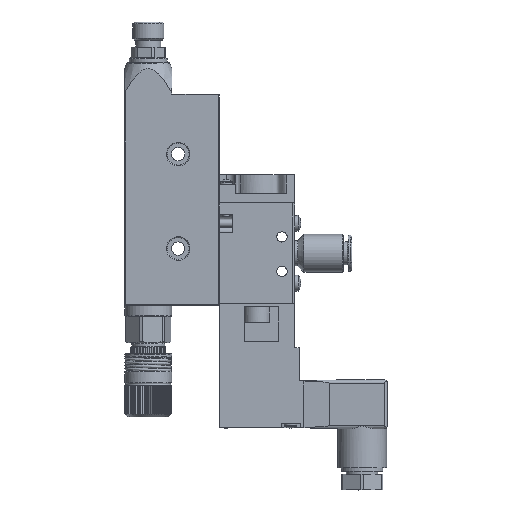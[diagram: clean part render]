
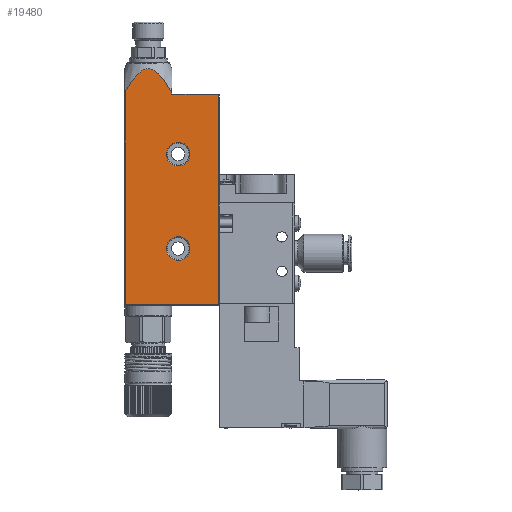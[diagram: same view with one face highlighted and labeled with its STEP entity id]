
A CAD part, left-side view. The second image highlights one B-rep face of the part: STEP entity #19480.
In plain terms, the highlighted planar face has unit normal (-1, 0, 0).
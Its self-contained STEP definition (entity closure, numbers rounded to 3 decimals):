
#657 = CARTESIAN_POINT ( 'NONE',  ( -7.5, -7.5, 38.5 ) ) ;
#771 = CARTESIAN_POINT ( 'NONE',  ( -7.5, -1.331, 36.36 ) ) ;
#894 = ORIENTED_EDGE ( 'NONE', *, *, #5423, .T. ) ;
#983 = CARTESIAN_POINT ( 'NONE',  ( -7.5, -5.61, 32.044 ) ) ;
#1410 = CARTESIAN_POINT ( 'NONE',  ( -7.5, 5.376, 32.388 ) ) ;
#1826 = EDGE_CURVE ( 'NONE', #28357, #23004, #36107, .T. ) ;
#2316 = LINE ( 'NONE', #24245, #5151 ) ;
#2641 = DIRECTION ( 'NONE',  ( 1., 0., 0. ) ) ;
#2645 = VECTOR ( 'NONE', #13626, 1000. ) ;
#2945 = CIRCLE ( 'NONE', #22001, 3.75 ) ;
#3754 = CARTESIAN_POINT ( 'NONE',  ( -7.5, 3.691, 34.53 ) ) ;
#3876 = CARTESIAN_POINT ( 'NONE',  ( -7.5, -9.5, -16.75 ) ) ;
#3913 = EDGE_LOOP ( 'NONE', ( #30603 ) ) ;
#4067 = CARTESIAN_POINT ( 'NONE',  ( -7.5, 7.5, 28.5 ) ) ;
#4097 = VERTEX_POINT ( 'NONE', #23415 ) ;
#4169 = CARTESIAN_POINT ( 'NONE',  ( -7.5, -4.267, 33.857 ) ) ;
#4593 = CARTESIAN_POINT ( 'NONE',  ( -7.5, 1.96, 36.026 ) ) ;
#5151 = VECTOR ( 'NONE', #21258, 1000. ) ;
#5410 = EDGE_LOOP ( 'NONE', ( #894 ) ) ;
#5423 = EDGE_CURVE ( 'NONE', #11822, #11822, #2945, .T. ) ;
#5662 = AXIS2_PLACEMENT_3D ( 'NONE', #4067, #36593, #13854 ) ;
#6430 = CARTESIAN_POINT ( 'NONE',  ( -7.5, -9.5, -20.5 ) ) ;
#6669 = VECTOR ( 'NONE', #12904, 1000. ) ;
#7372 = CARTESIAN_POINT ( 'NONE',  ( -7.5, -2.322, 35.78 ) ) ;
#7572 = CARTESIAN_POINT ( 'NONE',  ( -7.5, 2.704, 35.493 ) ) ;
#7784 = CARTESIAN_POINT ( 'NONE',  ( -7.5, -1.742, 36.156 ) ) ;
#8607 = CARTESIAN_POINT ( 'NONE',  ( -7.5, 7.5, 28.5 ) ) ;
#10577 = CARTESIAN_POINT ( 'NONE',  ( -7.5, 7.3, 29.302 ) ) ;
#10678 = FACE_OUTER_BOUND ( 'NONE', #31249, .T. ) ;
#10785 = CARTESIAN_POINT ( 'NONE',  ( -7.5, 0.692, 36.573 ) ) ;
#10995 = CARTESIAN_POINT ( 'NONE',  ( -7.5, -3.358, 34.871 ) ) ;
#11335 = DIRECTION ( 'NONE',  ( 0., -1., 0. ) ) ;
#11558 = CARTESIAN_POINT ( 'NONE',  ( -7.5, -9.5, 9.5 ) ) ;
#11822 = VERTEX_POINT ( 'NONE', #24780 ) ;
#12904 = DIRECTION ( 'NONE',  ( 0., -1., 0. ) ) ;
#13236 = FACE_BOUND ( 'NONE', #3913, .T. ) ;
#13548 = CARTESIAN_POINT ( 'NONE',  ( -7.5, -1.12, 36.445 ) ) ;
#13626 = DIRECTION ( 'NONE',  ( 0., 0., 1. ) ) ;
#13746 = CARTESIAN_POINT ( 'NONE',  ( -7.5, 3.992, 34.187 ) ) ;
#13854 = DIRECTION ( 'NONE',  ( 0., 0., 1. ) ) ;
#14176 = CARTESIAN_POINT ( 'NONE',  ( -7.5, -3.978, 34.205 ) ) ;
#14229 = VERTEX_POINT ( 'NONE', #24769 ) ;
#14299 = DIRECTION ( 'NONE',  ( 1., 0., 0. ) ) ;
#14686 = ORIENTED_EDGE ( 'NONE', *, *, #1826, .T. ) ;
#15497 = ORIENTED_EDGE ( 'NONE', *, *, #40170, .T. ) ;
#16807 = LINE ( 'NONE', #657, #2645 ) ;
#17058 = VERTEX_POINT ( 'NONE', #3876 ) ;
#17139 = CARTESIAN_POINT ( 'NONE',  ( -7.5, -5.1, 32.789 ) ) ;
#19480 = ADVANCED_FACE ( 'NONE', ( #13236, #20229, #10678 ), #33215, .T. ) ;
#19922 = CARTESIAN_POINT ( 'NONE',  ( -7.5, -3.029, 35.19 ) ) ;
#20125 = CARTESIAN_POINT ( 'NONE',  ( -7.5, 0.235, 36.643 ) ) ;
#20229 = FACE_BOUND ( 'NONE', #5410, .T. ) ;
#20548 = CARTESIAN_POINT ( 'NONE',  ( -7.5, -0.453, 36.619 ) ) ;
#20737 = CIRCLE ( 'NONE', #28229, 3.75 ) ;
#20762 = CARTESIAN_POINT ( 'NONE',  ( -7.5, 1.559, 36.253 ) ) ;
#21160 = DIRECTION ( 'NONE',  ( 0., 1., 0. ) ) ;
#21258 = DIRECTION ( 'NONE',  ( 0., 0., 1. ) ) ;
#21490 = CARTESIAN_POINT ( 'NONE',  ( -7.5, -7.5, 28.5 ) ) ;
#22001 = AXIS2_PLACEMENT_3D ( 'NONE', #11558, #14299, #11335 ) ;
#22906 = EDGE_CURVE ( 'NONE', #4097, #33221, #24776, .T. ) ;
#23004 = VERTEX_POINT ( 'NONE', #38356 ) ;
#23058 = EDGE_CURVE ( 'NONE', #17058, #17058, #20737, .T. ) ;
#23104 = CARTESIAN_POINT ( 'NONE',  ( -7.5, 7.5, -38.3 ) ) ;
#23415 = CARTESIAN_POINT ( 'NONE',  ( -7.5, -22.3, 28.5 ) ) ;
#24245 = CARTESIAN_POINT ( 'NONE',  ( -7.5, -22.3, 28.5 ) ) ;
#24717 = VECTOR ( 'NONE', #29347, 1000. ) ;
#24769 = CARTESIAN_POINT ( 'NONE',  ( -7.5, -7.5, 28.955 ) ) ;
#24776 = LINE ( 'NONE', #8607, #36995 ) ;
#24780 = CARTESIAN_POINT ( 'NONE',  ( -7.5, -13.25, 9.5 ) ) ;
#24824 = VERTEX_POINT ( 'NONE', #29176 ) ;
#25956 = B_SPLINE_CURVE_WITH_KNOTS ( 'NONE', 3,
 ( #26738, #36065, #27161, #983, #17139, #4169, #14176, #36486, #10995, #19922, #40315, #30352, #7372, #36915, #7784, #771, #13548, #32895, #20548, #30140, #20125, #10785, #33108, #33315, #20762, #4593, #36697, #7572, #30571, #3754, #13746, #33518, #1410, #39673, #27362, #10577 ),
 .UNSPECIFIED., .F., .F.,
 ( 4, 2, 2, 2, 2, 2, 2, 2, 2, 2, 2, 2, 2, 2, 2, 2, 2, 4 ),
 ( 0., 0.003, 0.005, 0.007, 0.007, 0.008, 0.009, 0.009, 0.01, 0.011, 0.012, 0.012, 0.013, 0.014, 0.015, 0.016, 0.019, 0.022 ),
 .UNSPECIFIED. ) ;
#26738 = CARTESIAN_POINT ( 'NONE',  ( -7.5, -7.5, 28.955 ) ) ;
#27161 = CARTESIAN_POINT ( 'NONE',  ( -7.5, -6.585, 30.521 ) ) ;
#27362 = CARTESIAN_POINT ( 'NONE',  ( -7.5, 6.843, 30.091 ) ) ;
#28229 = AXIS2_PLACEMENT_3D ( 'NONE', #6430, #2641, #38967 ) ;
#28304 = CARTESIAN_POINT ( 'NONE',  ( -7.5, 7.3, 29.302 ) ) ;
#28357 = VERTEX_POINT ( 'NONE', #28304 ) ;
#29176 = CARTESIAN_POINT ( 'NONE',  ( -7.5, -22.3, -38.3 ) ) ;
#29347 = DIRECTION ( 'NONE',  ( 0., 0., -1. ) ) ;
#30089 = ORIENTED_EDGE ( 'NONE', *, *, #33173, .T. ) ;
#30140 = CARTESIAN_POINT ( 'NONE',  ( -7.5, 0.006, 36.652 ) ) ;
#30352 = CARTESIAN_POINT ( 'NONE',  ( -7.5, -2.505, 35.64 ) ) ;
#30571 = CARTESIAN_POINT ( 'NONE',  ( -7.5, 3.047, 35.184 ) ) ;
#30603 = ORIENTED_EDGE ( 'NONE', *, *, #23058, .T. ) ;
#31249 = EDGE_LOOP ( 'NONE', ( #34766, #32606, #37916, #30089, #15497, #14686 ) ) ;
#32606 = ORIENTED_EDGE ( 'NONE', *, *, #38085, .T. ) ;
#32639 = EDGE_CURVE ( 'NONE', #23004, #24824, #35233, .T. ) ;
#32895 = CARTESIAN_POINT ( 'NONE',  ( -7.5, -0.683, 36.575 ) ) ;
#33108 = CARTESIAN_POINT ( 'NONE',  ( -7.5, 0.917, 36.513 ) ) ;
#33173 = EDGE_CURVE ( 'NONE', #33221, #14229, #16807, .T. ) ;
#33215 = PLANE ( 'NONE',  #5662 ) ;
#33221 = VERTEX_POINT ( 'NONE', #21490 ) ;
#33315 = CARTESIAN_POINT ( 'NONE',  ( -7.5, 1.348, 36.353 ) ) ;
#33518 = CARTESIAN_POINT ( 'NONE',  ( -7.5, 4.853, 33.13 ) ) ;
#34766 = ORIENTED_EDGE ( 'NONE', *, *, #32639, .T. ) ;
#35233 = LINE ( 'NONE', #23104, #6669 ) ;
#36065 = CARTESIAN_POINT ( 'NONE',  ( -7.5, -7.05, 29.743 ) ) ;
#36107 = LINE ( 'NONE', #36321, #24717 ) ;
#36321 = CARTESIAN_POINT ( 'NONE',  ( -7.5, 7.3, 28.5 ) ) ;
#36486 = CARTESIAN_POINT ( 'NONE',  ( -7.5, -3.517, 34.707 ) ) ;
#36593 = DIRECTION ( 'NONE',  ( -1., 0., 0. ) ) ;
#36697 = CARTESIAN_POINT ( 'NONE',  ( -7.5, 2.151, 35.9 ) ) ;
#36915 = CARTESIAN_POINT ( 'NONE',  ( -7.5, -1.941, 36.037 ) ) ;
#36995 = VECTOR ( 'NONE', #21160, 1000. ) ;
#37916 = ORIENTED_EDGE ( 'NONE', *, *, #22906, .T. ) ;
#38085 = EDGE_CURVE ( 'NONE', #24824, #4097, #2316, .T. ) ;
#38356 = CARTESIAN_POINT ( 'NONE',  ( -7.5, 7.3, -38.3 ) ) ;
#38967 = DIRECTION ( 'NONE',  ( 0., 0., 1. ) ) ;
#39673 = CARTESIAN_POINT ( 'NONE',  ( -7.5, 6.371, 30.869 ) ) ;
#40170 = EDGE_CURVE ( 'NONE', #14229, #28357, #25956, .T. ) ;
#40315 = CARTESIAN_POINT ( 'NONE',  ( -7.5, -2.858, 35.346 ) ) ;
